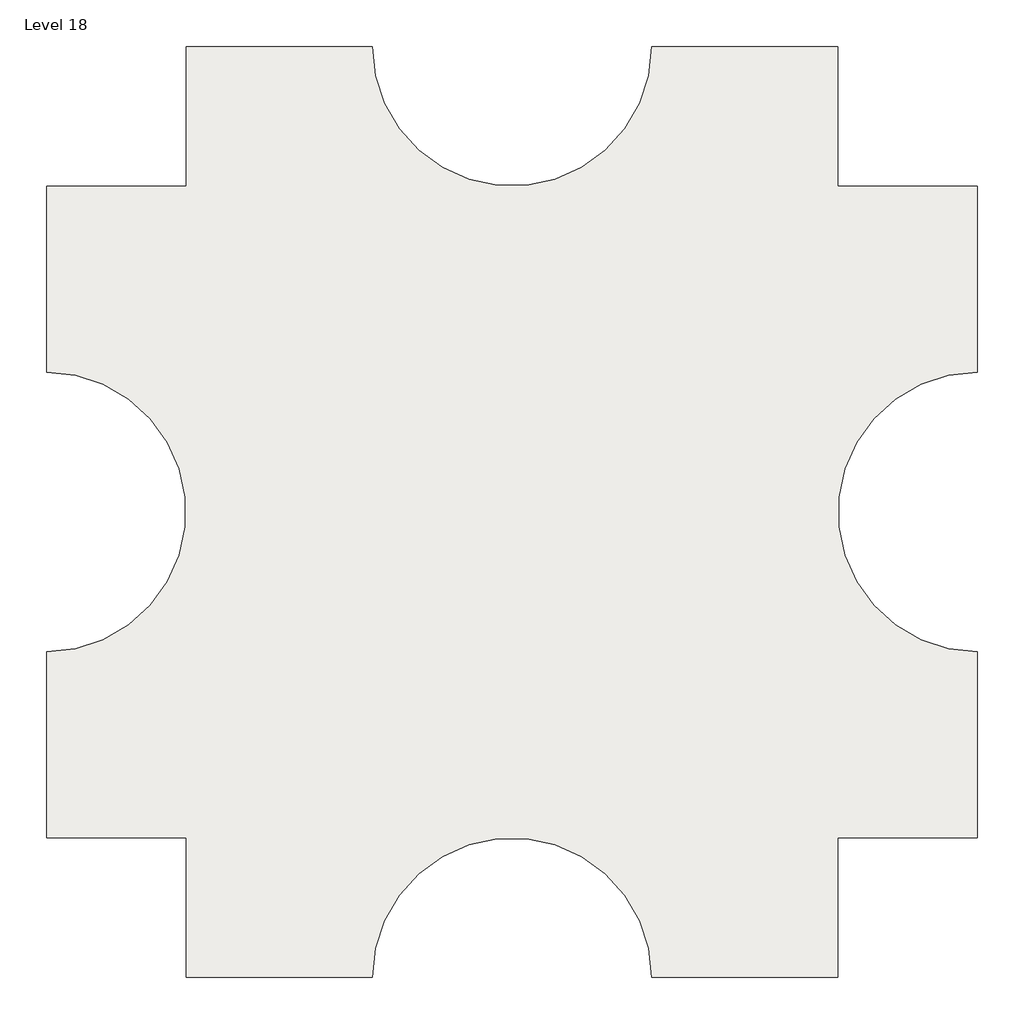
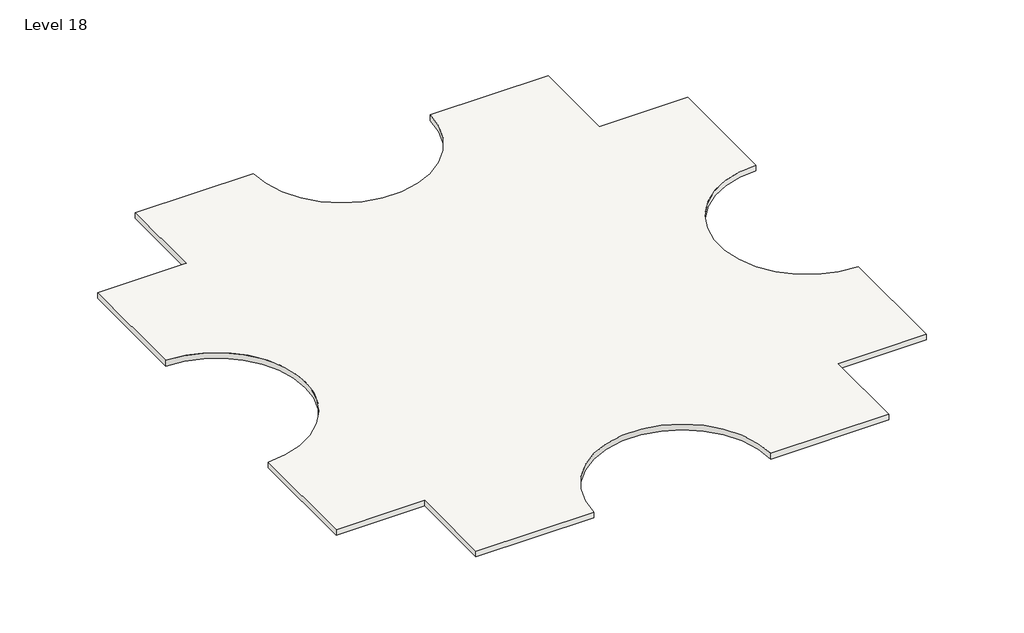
# One storey: 1 slab.
"""IFC4 building model written with IfcOpenShell, lengths in millimetres."""

import ifcopenshell
import ifcopenshell.guid

model = None  # the IFC model being written
_history = None  # IfcOwnerHistory: only IFC2X3 demands one
_inside = {}  # id of a spatial element -> (the spatial element, [elements in it])
_under = {}  # id of a project, library or spatial element -> (it, [spatial elements below it])
_declared = {}  # id of a project -> (the project, [libraries it declares])
_typed = {}  # id of a type object -> (the type object, [elements of that type])
_made_of = {}  # id of a material, layer set ... -> (it, [elements and type objects made of it])


def new_model(schema):
    """Start an empty IFC model of exactly this schema.

    Asked for "IFC4X3", IfcOpenShell would pick the latest addendum, in which some entities
    have other attributes; the version numbers below select the first issue.
    IFC2X3 requires an IfcOwnerHistory on every rooted entity: one is made here for all.
    """
    global model, _history
    if schema == "IFC4X3":
        model = ifcopenshell.file(schema_version=(4, 3, 0, 0))
    else:
        model = ifcopenshell.file(schema=schema)
    _inside.clear()
    _under.clear()
    _declared.clear()
    _typed.clear()
    _made_of.clear()
    _history = None
    if model.schema == "IFC2X3":
        org = make("IfcOrganization", Name="unknown")
        user = make(
            "IfcPersonAndOrganization",
            ThePerson=make("IfcPerson", FamilyName="unknown"),
            TheOrganization=org,
        )
        app = make(
            "IfcApplication",
            ApplicationDeveloper=org,
            Version="unknown",
            ApplicationFullName="unknown",
            ApplicationIdentifier="unknown",
        )
        _history = make(
            "IfcOwnerHistory",
            OwningUser=user,
            OwningApplication=app,
            ChangeAction="ADDED",
            CreationDate=0,
        )
    return model


def make(cls, **values):
    """One entity of the class cls with the attributes given. An attribute that is None is left unset."""
    return model.create_entity(
        cls, **{name: value for name, value in values.items() if value is not None}
    )


def rooted(cls, **values):
    """An entity with a GlobalId (a new one), such as an element, a storey or a relation."""
    return make(cls, GlobalId=ifcopenshell.guid.new(), OwnerHistory=_history, **values)


def si_unit(unit_type, name, prefix=None):
    """IfcSIUnit, for example si_unit("LENGTHUNIT", "METRE", prefix="MILLI")."""
    return make("IfcSIUnit", UnitType=unit_type, Prefix=prefix, Name=name)


def assignment(units):
    """IfcUnitAssignment: the units of a project."""
    return None if units is None else make("IfcUnitAssignment", Units=units)


def point(xyz):
    """IfcCartesianPoint."""
    return None if xyz is None else make("IfcCartesianPoint", Coordinates=xyz)


def direction(xyz):
    """IfcDirection."""
    return None if xyz is None else make("IfcDirection", DirectionRatios=xyz)


def frame(location, z_axis=None, x_axis=None):
    """IfcAxis2Placement3D, a coordinate frame: its origin and axes. An axis left out is left unset."""
    return make(
        "IfcAxis2Placement3D",
        Location=point(location),
        Axis=direction(z_axis),
        RefDirection=direction(x_axis),
    )


def frame_2d(location, x_axis=None):
    """IfcAxis2Placement2D, a coordinate frame in the plane: its origin and x axis."""
    return make(
        "IfcAxis2Placement2D", Location=point(location), RefDirection=direction(x_axis)
    )


def origin():
    """The frame at (0, 0, 0) with its axes left unset."""
    return frame((0.0, 0.0, 0.0))


def place(relative_to, where):
    """IfcLocalPlacement: puts the frame where relative to a parent placement (None: the world)."""
    return make(
        "IfcLocalPlacement", PlacementRelTo=relative_to, RelativePlacement=where
    )


def context(
    kind, dimensions, precision=None, world=None, true_north=None, identifier=None
):
    """IfcGeometricRepresentationContext, for example the 3D "Model" context."""
    return make(
        "IfcGeometricRepresentationContext",
        ContextIdentifier=identifier,
        ContextType=kind,
        CoordinateSpaceDimension=dimensions,
        Precision=precision,
        WorldCoordinateSystem=world,
        TrueNorth=true_north,
    )


def project(units=None, contexts=None):
    """IfcProject with its units and contexts."""
    return rooted(
        "IfcProject",
        Name="project",
        RepresentationContexts=contexts,
        UnitsInContext=assignment(units),
    )


def spatial(cls, under=None, at=None, **own):
    """A site, building, storey or space (cls), placed at a placement, below another one or the project."""
    s = rooted(cls, ObjectPlacement=at, **own)
    if under is not None:
        _under.setdefault(under.id(), (under, []))[1].append(s)
    return s


def polyline(points):
    """IfcPolyline through the points."""
    return make("IfcPolyline", Points=[point(p) for p in points])


def circle_curve(where, radius):
    """IfcCircle in the frame where."""
    return make("IfcCircle", Position=where, Radius=radius)


def trimmed(basis, trim1, trim2, sense, master):
    """IfcTrimmedCurve: the piece of a basis curve between two trims."""
    return make(
        "IfcTrimmedCurve",
        BasisCurve=basis,
        Trim1=trim1,
        Trim2=trim2,
        SenseAgreement=sense,
        MasterRepresentation=master,
    )


def segment(curve, same_sense, transition):
    """IfcCompositeCurveSegment."""
    return make(
        "IfcCompositeCurveSegment",
        Transition=transition,
        SameSense=same_sense,
        ParentCurve=curve,
    )


def composite_curve(segments, self_intersect=None):
    """IfcCompositeCurve: segments joined end to end."""
    return make("IfcCompositeCurve", Segments=segments, SelfIntersect=self_intersect)


def outline(outer, holes=None, kind="AREA"):
    """IfcArbitraryClosedProfileDef: a profile drawn as a closed curve; with holes, ...WithVoids."""
    if holes is None:
        return make("IfcArbitraryClosedProfileDef", ProfileType=kind, OuterCurve=outer)
    return make(
        "IfcArbitraryProfileDefWithVoids",
        ProfileType=kind,
        OuterCurve=outer,
        InnerCurves=holes,
    )


def extrude(swept, where, along, depth):
    """IfcExtrudedAreaSolid: the profile swept, set in the frame where, extruded along a direction by depth."""
    return make(
        "IfcExtrudedAreaSolid",
        SweptArea=swept,
        Position=where,
        ExtrudedDirection=direction(along),
        Depth=depth,
    )


def shape(context_of_items, identifier, shape_type, items):
    """IfcShapeRepresentation: the items that make up one representation, for example the "Body"."""
    return make(
        "IfcShapeRepresentation",
        ContextOfItems=context_of_items,
        RepresentationIdentifier=identifier,
        RepresentationType=shape_type,
        Items=items,
    )


def made_of(thing, what):
    """Note that an element or type object is made of a material, layer set ...; save() writes the relation."""
    if what is not None:
        _made_of.setdefault(what.id(), (what, []))[1].append(thing)
    return thing


def element(
    cls,
    number,
    at=None,
    inside=None,
    cuts=None,
    type_object=None,
    material=None,
    context=None,
    identifier="Body",
    shape_type=None,
    held_by="IfcProductDefinitionShape",
    body=None,
    shapes=None,
    **own,
):
    """One element of the class cls, such as IfcWall. Its Tag is "e" and its number.

    at: its placement. inside: the storey or other place that contains it. cuts: it is an
    opening in that element (IfcRelVoidsElement). A single representation is given by context,
    identifier, shape_type and body (its items); several are given by shapes. held_by: the class
    of the entity that holds the representations. save() writes the other relations.
    """
    e = rooted(cls, Tag="e%d" % number, ObjectPlacement=at, **own)
    if body is not None:
        shapes = [shape(context, identifier, shape_type, body)]
    if shapes is not None:
        e.Representation = make(held_by, Representations=shapes)
    if inside is not None:
        _inside.setdefault(inside.id(), (inside, []))[1].append(e)
    if cuts is not None:
        rooted(
            "IfcRelVoidsElement", RelatingBuildingElement=cuts, RelatedOpeningElement=e
        )
    if type_object is not None:
        _typed.setdefault(type_object.id(), (type_object, []))[1].append(e)
    return made_of(e, material)


def aggregate(whole, parts):
    """IfcRelAggregates: a whole, such as a stair, and the parts it consists of."""
    return rooted("IfcRelAggregates", RelatingObject=whole, RelatedObjects=parts)


def save(model, path):
    """Write the relations noted so far, then the file.

    IfcRelAggregates (storeys below a building ...), IfcRelContainedInSpatialStructure (elements
    in a storey), IfcRelDefinesByType, IfcRelAssociatesMaterial and IfcRelDeclares: one each for
    every whole, place, type object, material and project.
    """
    for whole, parts in _under.values():
        aggregate(whole, parts)
    for where, things in _inside.values():
        rooted(
            "IfcRelContainedInSpatialStructure",
            RelatedElements=things,
            RelatingStructure=where,
        )
    for kind, things in _typed.values():
        rooted("IfcRelDefinesByType", RelatedObjects=things, RelatingType=kind)
    for what, things in _made_of.values():
        rooted("IfcRelAssociatesMaterial", RelatedObjects=things, RelatingMaterial=what)
    for by, libraries in _declared.values():
        rooted("IfcRelDeclares", RelatingContext=by, RelatedDefinitions=libraries)
    model.write(path)


model = new_model("IFC4")

# Units and contexts
model_context = context("Model", 3, world=origin())
ifc_project = project(units=[si_unit("LENGTHUNIT", "METRE", prefix="MILLI")], contexts=[model_context])

# Site, building, storey
site = spatial("IfcSite", under=ifc_project)
building = spatial("IfcBuilding", under=site)
storey = spatial("IfcBuildingStorey", under=building, Name="Level 18", Elevation=51816.0)

# Slab
placement = place(None, origin())
element("IfcSlab", 1, ObjectType="Generic - 12\"", at=placement, inside=storey, context=model_context, shape_type="SweptSolid", body=[
    extrude(outline(composite_curve([segment(polyline([(-7150.3629456, 4479.6634547), (-7150.3629456, 9051.6634547), (-1054.3629456, 9051.6634547)]), True, "CONTINUOUS"), segment(trimmed(circle_curve(frame_2d((3517.6370544, 9051.6634547)), 4572.0), [point((-1054.3629456, 9051.6634547))], [point((8089.6370544, 9051.6634547))], True, "CARTESIAN"), True, "CONTINUOUS"), segment(polyline([(8089.6370544, 9051.6634547), (14185.6370544, 9051.6634547), (14185.6370544, 4479.6634547), (18757.6370544, 4479.6634547), (18757.6370544, -1616.3365453)]), True, "CONTINUOUS"), segment(trimmed(circle_curve(frame_2d((18757.6370544, -6188.3365453)), 4572.0), [point((18757.6370544, -1616.3365453))], [point((18757.6370544, -10760.3365453))], True, "CARTESIAN"), True, "CONTINUOUS"), segment(polyline([(18757.6370544, -10760.3365453), (18757.6370544, -16856.3365453), (14185.6370544, -16856.3365453), (14185.6370544, -21428.3365453), (8089.6370544, -21428.3365453)]), True, "CONTINUOUS"), segment(trimmed(circle_curve(frame_2d((3517.6370544, -21428.3365453)), 4572.0), [point((8089.6370544, -21428.3365453))], [point((-1054.3629456, -21428.3365453))], True, "CARTESIAN"), True, "CONTINUOUS"), segment(polyline([(-1054.3629456, -21428.3365453), (-7150.3629456, -21428.3365453), (-7150.3629456, -16856.3365453), (-11722.3629456, -16856.3365453), (-11722.3629456, -10760.3365453)]), True, "CONTINUOUS"), segment(trimmed(circle_curve(frame_2d((-11722.3629456, -6188.3365453)), 4572.0), [point((-11722.3629456, -10760.3365453))], [point((-11722.3629456, -1616.3365453))], True, "CARTESIAN"), True, "CONTINUOUS"), segment(polyline([(-11722.3629456, -1616.3365453), (-11722.3629456, 4479.6634547), (-7150.3629456, 4479.6634547)]), True, "CONTINUOUS")], self_intersect=False)), frame((0.0, 0.0, 51511.2), z_axis=(0.0, 0.0, 1.0), x_axis=(1.0, 0.0, 0.0)), (0.0, 0.0, 1.0), 304.8),
])

save(model, "model.ifc")
